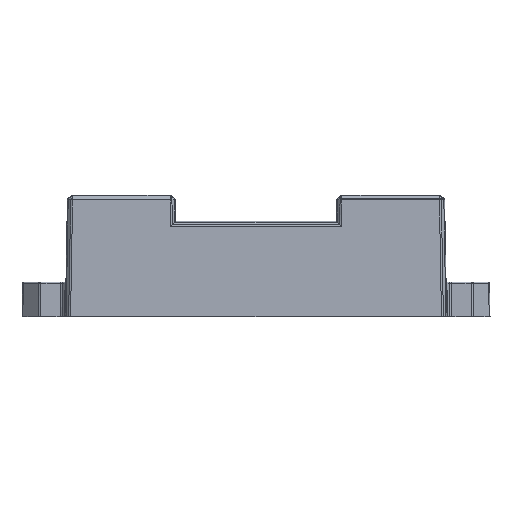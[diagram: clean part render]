
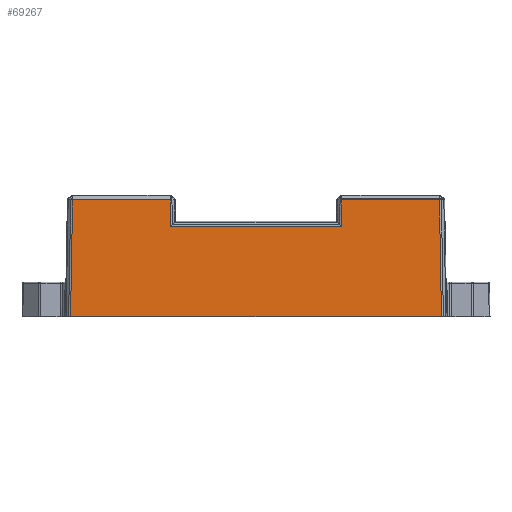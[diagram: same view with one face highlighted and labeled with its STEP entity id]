
A CAD part, top view. The second image highlights one B-rep face of the part: STEP entity #69267.
In plain terms, the highlighted planar face has unit normal (0, 0.018, 1).
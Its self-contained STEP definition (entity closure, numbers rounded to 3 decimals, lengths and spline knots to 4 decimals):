
#4930=PLANE('',#74255);
#7576=FACE_OUTER_BOUND('',#11587,.T.);
#11587=EDGE_LOOP('',(#55519,#55520,#55521,#55522,#55523,#55524,#55525,#55526));
#17398=LINE('',#106813,#24242);
#17469=LINE('',#107022,#24313);
#17470=LINE('',#107024,#24314);
#17471=LINE('',#107026,#24315);
#17472=LINE('',#107028,#24316);
#17473=LINE('',#107030,#24317);
#17474=LINE('',#107032,#24318);
#17475=LINE('',#107033,#24319);
#24242=VECTOR('',#85374,39.3701);
#24313=VECTOR('',#85545,39.3701);
#24314=VECTOR('',#85546,39.3701);
#24315=VECTOR('',#85547,39.3701);
#24316=VECTOR('',#85548,39.3701);
#24317=VECTOR('',#85549,39.3701);
#24318=VECTOR('',#85550,39.3701);
#24319=VECTOR('',#85551,39.3701);
#32132=VERTEX_POINT('',#106810);
#32133=VERTEX_POINT('',#106812);
#32209=VERTEX_POINT('',#107021);
#32210=VERTEX_POINT('',#107023);
#32211=VERTEX_POINT('',#107025);
#32212=VERTEX_POINT('',#107027);
#32213=VERTEX_POINT('',#107029);
#32214=VERTEX_POINT('',#107031);
#40510=EDGE_CURVE('',#32133,#32132,#17398,.T.);
#40619=EDGE_CURVE('',#32132,#32209,#17469,.T.);
#40620=EDGE_CURVE('',#32209,#32210,#17470,.T.);
#40621=EDGE_CURVE('',#32210,#32211,#17471,.T.);
#40622=EDGE_CURVE('',#32211,#32212,#17472,.T.);
#40623=EDGE_CURVE('',#32212,#32213,#17473,.T.);
#40624=EDGE_CURVE('',#32213,#32214,#17474,.T.);
#40625=EDGE_CURVE('',#32214,#32133,#17475,.T.);
#55519=ORIENTED_EDGE('',*,*,#40619,.T.);
#55520=ORIENTED_EDGE('',*,*,#40620,.T.);
#55521=ORIENTED_EDGE('',*,*,#40621,.T.);
#55522=ORIENTED_EDGE('',*,*,#40622,.T.);
#55523=ORIENTED_EDGE('',*,*,#40623,.T.);
#55524=ORIENTED_EDGE('',*,*,#40624,.T.);
#55525=ORIENTED_EDGE('',*,*,#40625,.T.);
#55526=ORIENTED_EDGE('',*,*,#40510,.T.);
#69267=ADVANCED_FACE('',(#7576),#4930,.T.);
#74255=AXIS2_PLACEMENT_3D('',#107020,#85543,#85544);
#85374=DIRECTION('',(1.,0.,0.));
#85543=DIRECTION('center_axis',(0.,0.017,
1.));
#85544=DIRECTION('ref_axis',(0.,-1.,0.017));
#85545=DIRECTION('',(-0.017,1.,-0.017));
#85546=DIRECTION('',(-1.,0.,0.));
#85547=DIRECTION('',(-0.017,-1.,0.017));
#85548=DIRECTION('',(-1.,0.,0.));
#85549=DIRECTION('',(-0.017,1.,-0.017));
#85550=DIRECTION('',(-1.,0.,0.));
#85551=DIRECTION('',(-0.017,-1.,0.017));
#106810=CARTESIAN_POINT('',(1.3373,0.,0.625));
#106812=CARTESIAN_POINT('',(-1.3373,0.,0.625));
#106813=CARTESIAN_POINT('',(0.,0.,0.625));
#107020=CARTESIAN_POINT('Origin',(0.,0.,0.625));
#107021=CARTESIAN_POINT('',(1.3226,0.8414,0.6103));
#107022=CARTESIAN_POINT('',(1.3226,0.8453,0.6102));
#107023=CARTESIAN_POINT('',(0.6203,0.8414,0.6103));
#107024=CARTESIAN_POINT('',(0.6204,0.8414,0.6103));
#107025=CARTESIAN_POINT('',(0.6169,0.6493,0.6137));
#107026=CARTESIAN_POINT('',(0.6171,0.6573,0.6135));
#107027=CARTESIAN_POINT('',(-0.6169,0.6493,0.6137));
#107028=CARTESIAN_POINT('',(-0.6089,0.6493,0.6137));
#107029=CARTESIAN_POINT('',(-0.6203,0.841,0.6103));
#107030=CARTESIAN_POINT('',(-0.6204,0.8448,0.6103));
#107031=CARTESIAN_POINT('',(-1.3226,0.841,0.6103));
#107032=CARTESIAN_POINT('',(-1.3226,0.841,0.6103));
#107033=CARTESIAN_POINT('',(-1.3373,-0.0001,0.625));
